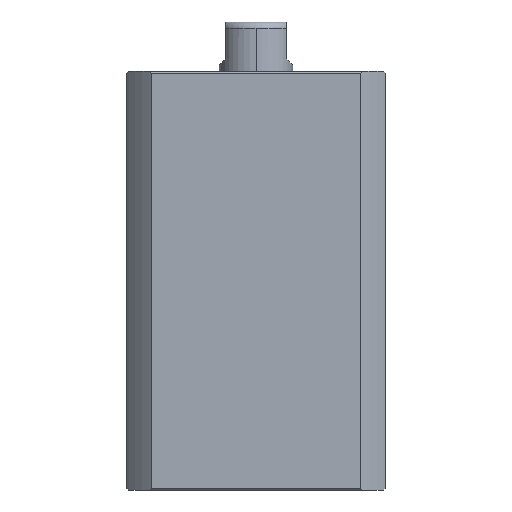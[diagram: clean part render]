
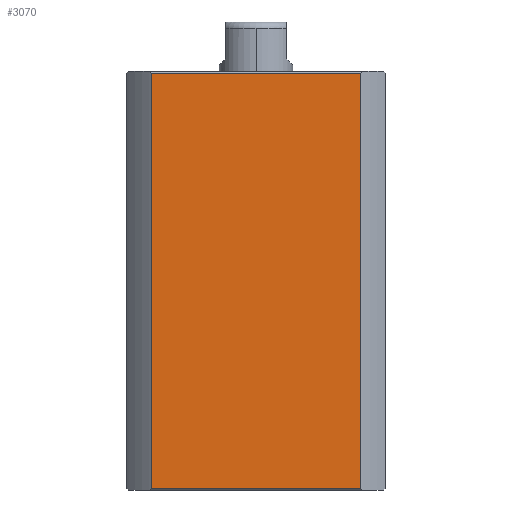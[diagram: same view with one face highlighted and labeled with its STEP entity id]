
A CAD part, left-side view. The second image highlights one B-rep face of the part: STEP entity #3070.
In plain terms, the highlighted planar face has unit normal (-1, 0, 0).
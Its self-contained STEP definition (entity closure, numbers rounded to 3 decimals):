
#17 = VECTOR ( 'NONE', #6842, 1000. ) ;
#438 = CARTESIAN_POINT ( 'NONE',  ( -21., 16.971, -132. ) ) ;
#845 = EDGE_CURVE ( 'NONE', #6564, #1861, #2686, .T. ) ;
#1861 = VERTEX_POINT ( 'NONE', #2281 ) ;
#2281 = CARTESIAN_POINT ( 'NONE',  ( -21., 16.971, 67.7 ) ) ;
#2419 = CARTESIAN_POINT ( 'NONE',  ( -21., 21., 0.3 ) ) ;
#2440 = LINE ( 'NONE', #438, #17 ) ;
#2607 = CARTESIAN_POINT ( 'NONE',  ( -21., -16.971, -132. ) ) ;
#2666 = VERTEX_POINT ( 'NONE', #3239 ) ;
#2686 = LINE ( 'NONE', #9965, #11655 ) ;
#3000 = ORIENTED_EDGE ( 'NONE', *, *, #9217, .F. ) ;
#3070 = ADVANCED_FACE ( 'NONE', ( #9584 ), #6418, .F. ) ;
#3239 = CARTESIAN_POINT ( 'NONE',  ( -21., 16.971, 0.3 ) ) ;
#3460 = DIRECTION ( 'NONE',  ( 0., 0., -1. ) ) ;
#3723 = ORIENTED_EDGE ( 'NONE', *, *, #845, .T. ) ;
#3899 = DIRECTION ( 'NONE',  ( 1., 0., 0. ) ) ;
#4164 = EDGE_CURVE ( 'NONE', #2666, #5708, #8735, .T. ) ;
#4859 = CARTESIAN_POINT ( 'NONE',  ( -21., -16.971, 67.7 ) ) ;
#4880 = ORIENTED_EDGE ( 'NONE', *, *, #10169, .F. ) ;
#4896 = LINE ( 'NONE', #2607, #9652 ) ;
#5708 = VERTEX_POINT ( 'NONE', #9797 ) ;
#5749 = EDGE_LOOP ( 'NONE', ( #3000, #8393, #4880, #3723 ) ) ;
#6362 = VECTOR ( 'NONE', #10539, 1000. ) ;
#6418 = PLANE ( 'NONE',  #8909 ) ;
#6564 = VERTEX_POINT ( 'NONE', #4859 ) ;
#6842 = DIRECTION ( 'NONE',  ( 0., 0., 1. ) ) ;
#8393 = ORIENTED_EDGE ( 'NONE', *, *, #4164, .T. ) ;
#8735 = LINE ( 'NONE', #2419, #6362 ) ;
#8909 = AXIS2_PLACEMENT_3D ( 'NONE', #9909, #3899, #10198 ) ;
#9217 = EDGE_CURVE ( 'NONE', #2666, #1861, #2440, .T. ) ;
#9584 = FACE_OUTER_BOUND ( 'NONE', #5749, .T. ) ;
#9652 = VECTOR ( 'NONE', #3460, 1000. ) ;
#9797 = CARTESIAN_POINT ( 'NONE',  ( -21., -16.971, 0.3 ) ) ;
#9909 = CARTESIAN_POINT ( 'NONE',  ( -21., 21., 68. ) ) ;
#9965 = CARTESIAN_POINT ( 'NONE',  ( -21., 21., 67.7 ) ) ;
#10013 = DIRECTION ( 'NONE',  ( 0., 1., 0. ) ) ;
#10169 = EDGE_CURVE ( 'NONE', #6564, #5708, #4896, .T. ) ;
#10198 = DIRECTION ( 'NONE',  ( 0., 1., 0. ) ) ;
#10539 = DIRECTION ( 'NONE',  ( 0., -1., 0. ) ) ;
#11655 = VECTOR ( 'NONE', #10013, 1000. ) ;
